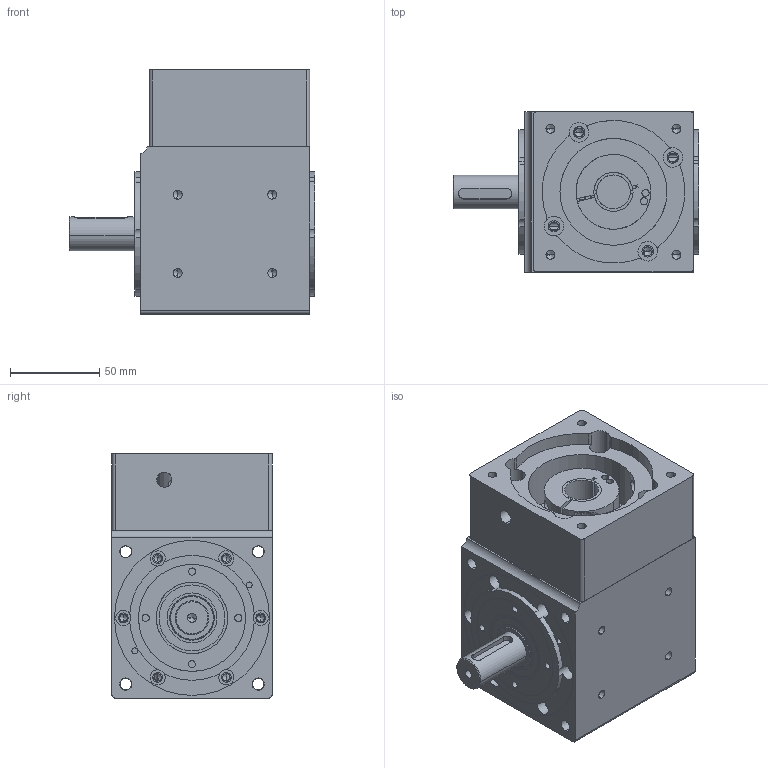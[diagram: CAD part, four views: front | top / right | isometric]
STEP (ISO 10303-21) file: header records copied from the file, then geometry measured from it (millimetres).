
FILE_DESCRIPTION (( 'STEP AP203' ), '1' );
FILE_NAME ('PVFD090单轴装配图 （19-80-100）.STEP', '2021-07-05T03:07:50', ( 'User' ), ( 'China' ), 'SwSTEP 2.0', 'SolidWorks 2015', '' );
FILE_SCHEMA (( 'CONFIG_CONTROL_DESIGN' ));
Length unit declared in the file: millimetre
Products named in the file (11): PVFD090綴楊擘(80-100); PVFD090͹̨; PVFD090单轴装配图 （19-80-100）; deep groove ball bearings gb_Rolling bearings 6005 GB 276-94; tapered roller bearings gb_Rolling bearings 32005 GB 297-94; PVFD090標杶; PVFD090蹟譫; PVFDo9o眊极; PVFD090怀堤粣; PVFD090输入轴; 25-40-7蚐猾
Assembly tree (14 placements, depth 2):
  PVFD090单轴装配图 （19-80-100）
    PVFDo9o眊极
    PVFD090͹̨  x2
    deep groove ball bearings gb_Rolling bearings 6005 GB 276-94  x2
    tapered roller bearings gb_Rolling bearings 32005 GB 297-94
    PVFD090標杶
    PVFD090蹟譫  x2
    PVFD090怀堤粣
    PVFD090输入轴
    25-40-7蚐猾  x2
    PVFD090綴楊擘(80-100)
Bounding box: 138 x 90 x 137 mm (x, y, z)
Volume: 835017.1 mm3; surface area: 234799 mm2
Topology: 14 solids, 14 shells, 976 faces, 3331 edges, 2163 vertices
Faces by surface type: cylinder 369, torus 224, plane 167, cone 140, sphere 76
Entity records: 32454 total; most frequent: CARTESIAN_POINT 10536, ORIENTED_EDGE 4628, DIRECTION 4203, EDGE_CURVE 2314, AXIS2_PLACEMENT_3D 1863, VERTEX_POINT 1518, CIRCLE 1090, EDGE_LOOP 926
